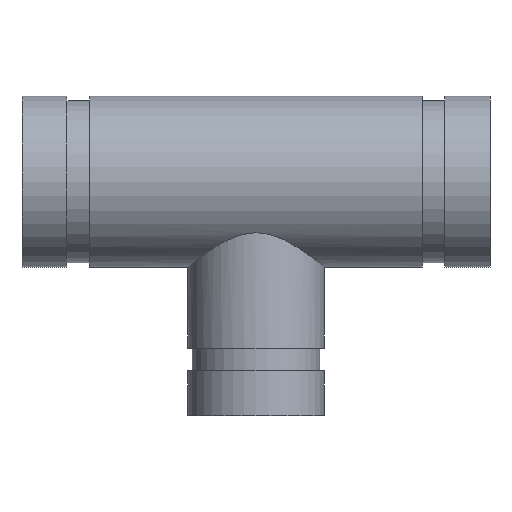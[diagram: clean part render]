
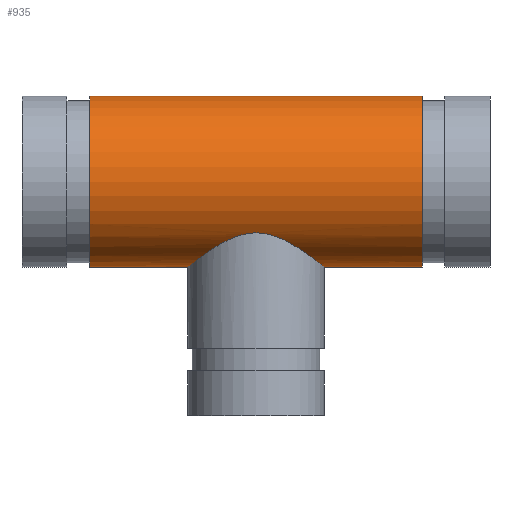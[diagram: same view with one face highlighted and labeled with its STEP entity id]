
A CAD part, top view. The second image highlights one B-rep face of the part: STEP entity #935.
In plain terms, the highlighted cylindrical face has radius 30.163 mm (diameter 60.325 mm), a full revolution.
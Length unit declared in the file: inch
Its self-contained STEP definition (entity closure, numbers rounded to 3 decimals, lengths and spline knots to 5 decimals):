
#61=FACE_BOUND('',#222,.T.);
#67=B_SPLINE_CURVE_WITH_KNOTS('',3,(#1807,#1808,#1809,#1810,#1811,#1812,
#1813,#1814,#1815,#1816,#1817,#1818,#1819,#1820,#1821,#1822,#1823,#1824),
 .UNSPECIFIED.,.F.,.F.,(4,2,2,2,2,2,2,2,4),(0.,0.49484,0.98968,
1.48453,1.97937,2.45882,2.93827,3.41772,
3.89717),.UNSPECIFIED.);
#68=B_SPLINE_CURVE_WITH_KNOTS('',3,(#1825,#1826,#1827,#1828,#1829,#1830,
#1831,#1832,#1833,#1834,#1835,#1836,#1837,#1838,#1839,#1840,#1841,#1842,
#1843,#1844,#1845,#1846,#1847,#1848,#1849,#1850,#1851,#1852,#1853,#1854,
#1855,#1856,#1857,#1858,#1859,#1860,#1861,#1862,#1863,#1864,#1865,#1866,
#1867,#1868,#1869,#1870,#1871,#1872,#1873,#1874),.UNSPECIFIED.,.F.,.F.,
(4,2,2,2,2,2,2,2,2,2,2,2,2,2,2,2,2,2,2,2,2,2,2,2,4),(3.89717,4.37663,
4.85608,5.33553,5.81498,6.30982,6.80467,
7.29951,7.79435,8.28919,8.78403,9.27888,
9.77372,10.25317,10.73262,11.21207,11.69152,
12.17098,12.65043,13.12988,13.60933,14.10417,
14.59902,15.09386,15.5887),.UNSPECIFIED.);
#81=CYLINDRICAL_SURFACE('',#1104,1.1875);
#103=LINE('',#1804,#125);
#125=VECTOR('',#1432,1.1875);
#171=FACE_OUTER_BOUND('',#221,.T.);
#221=EDGE_LOOP('',(#814,#815,#816,#817));
#222=EDGE_LOOP('',(#818,#819));
#326=CIRCLE('',#1087,1.1875);
#337=CIRCLE('',#1103,1.1875);
#424=VERTEX_POINT('',#1772);
#435=VERTEX_POINT('',#1801);
#436=VERTEX_POINT('',#1805);
#437=VERTEX_POINT('',#1806);
#552=EDGE_CURVE('',#424,#424,#326,.T.);
#565=EDGE_CURVE('',#435,#435,#337,.T.);
#566=EDGE_CURVE('',#435,#424,#103,.T.);
#567=EDGE_CURVE('',#436,#437,#67,.T.);
#568=EDGE_CURVE('',#437,#436,#68,.T.);
#814=ORIENTED_EDGE('',*,*,#565,.T.);
#815=ORIENTED_EDGE('',*,*,#566,.T.);
#816=ORIENTED_EDGE('',*,*,#552,.T.);
#817=ORIENTED_EDGE('',*,*,#566,.F.);
#818=ORIENTED_EDGE('',*,*,#567,.T.);
#819=ORIENTED_EDGE('',*,*,#568,.T.);
#935=ADVANCED_FACE('',(#171,#61),#81,.T.);
#1087=AXIS2_PLACEMENT_3D('',#1773,#1394,#1395);
#1103=AXIS2_PLACEMENT_3D('',#1802,#1428,#1429);
#1104=AXIS2_PLACEMENT_3D('',#1803,#1430,#1431);
#1394=DIRECTION('center_axis',(-1.,0.,0.));
#1395=DIRECTION('ref_axis',(0.,-1.,0.));
#1428=DIRECTION('center_axis',(1.,0.,0.));
#1429=DIRECTION('ref_axis',(0.,-1.,0.));
#1430=DIRECTION('center_axis',(-1.,0.,0.));
#1431=DIRECTION('ref_axis',(0.,-1.,0.));
#1432=DIRECTION('',(1.,0.,0.));
#1772=CARTESIAN_POINT('',(2.312,1.1875,0.));
#1773=CARTESIAN_POINT('Origin',(2.312,0.,0.));
#1801=CARTESIAN_POINT('',(-2.312,1.1875,0.));
#1802=CARTESIAN_POINT('Origin',(-2.312,0.,0.));
#1803=CARTESIAN_POINT('Origin',(3.25,0.,0.));
#1804=CARTESIAN_POINT('',(3.25,1.1875,0.));
#1805=CARTESIAN_POINT('',(0.,-0.7125,-0.95));
#1806=CARTESIAN_POINT('',(-0.95,-1.1875,0.));
#1807=CARTESIAN_POINT('Ctrl Pts',(0.,-0.7125,-0.95));
#1808=CARTESIAN_POINT('Ctrl Pts',(-0.06494,-0.7125,-0.95));
#1809=CARTESIAN_POINT('Ctrl Pts',(-0.12934,-0.72164,
-0.94331));
#1810=CARTESIAN_POINT('Ctrl Pts',(-0.25407,-0.75404,
-0.91761));
#1811=CARTESIAN_POINT('Ctrl Pts',(-0.31444,-0.77714,
-0.89861));
#1812=CARTESIAN_POINT('Ctrl Pts',(-0.42908,-0.83017,
-0.84986));
#1813=CARTESIAN_POINT('Ctrl Pts',(-0.48343,-0.86008,
-0.82006));
#1814=CARTESIAN_POINT('Ctrl Pts',(-0.58411,-0.92044,
-0.75168));
#1815=CARTESIAN_POINT('Ctrl Pts',(-0.63044,-0.9509,
-0.71307));
#1816=CARTESIAN_POINT('Ctrl Pts',(-0.71178,-1.0067,-0.63172));
#1817=CARTESIAN_POINT('Ctrl Pts',(-0.75008,-1.03428,
-0.58616));
#1818=CARTESIAN_POINT('Ctrl Pts',(-0.81875,-1.08511,
-0.48565));
#1819=CARTESIAN_POINT('Ctrl Pts',(-0.84913,-1.10834,
-0.43068));
#1820=CARTESIAN_POINT('Ctrl Pts',(-0.89874,-1.1468,
-0.31428));
#1821=CARTESIAN_POINT('Ctrl Pts',(-0.91801,-1.16204,
-0.25272));
#1822=CARTESIAN_POINT('Ctrl Pts',(-0.94365,-1.1824,
-0.12704));
#1823=CARTESIAN_POINT('Ctrl Pts',(-0.95,-1.1875,-0.06292));
#1824=CARTESIAN_POINT('Ctrl Pts',(-0.95,-1.1875,0.));
#1825=CARTESIAN_POINT('Ctrl Pts',(-0.95,-1.1875,0.));
#1826=CARTESIAN_POINT('Ctrl Pts',(-0.95,-1.1875,0.06292));
#1827=CARTESIAN_POINT('Ctrl Pts',(-0.94365,-1.1824,
0.12704));
#1828=CARTESIAN_POINT('Ctrl Pts',(-0.91801,-1.16204,
0.25272));
#1829=CARTESIAN_POINT('Ctrl Pts',(-0.89874,-1.1468,
0.31428));
#1830=CARTESIAN_POINT('Ctrl Pts',(-0.84913,-1.10834,
0.43068));
#1831=CARTESIAN_POINT('Ctrl Pts',(-0.81875,-1.08511,
0.48565));
#1832=CARTESIAN_POINT('Ctrl Pts',(-0.75008,-1.03428,
0.58616));
#1833=CARTESIAN_POINT('Ctrl Pts',(-0.71178,-1.0067,0.63172));
#1834=CARTESIAN_POINT('Ctrl Pts',(-0.63044,-0.9509,
0.71307));
#1835=CARTESIAN_POINT('Ctrl Pts',(-0.58411,-0.92044,
0.75168));
#1836=CARTESIAN_POINT('Ctrl Pts',(-0.48343,-0.86008,
0.82006));
#1837=CARTESIAN_POINT('Ctrl Pts',(-0.42908,-0.83017,
0.84986));
#1838=CARTESIAN_POINT('Ctrl Pts',(-0.31444,-0.77714,
0.89861));
#1839=CARTESIAN_POINT('Ctrl Pts',(-0.25407,-0.75404,
0.91761));
#1840=CARTESIAN_POINT('Ctrl Pts',(-0.12934,-0.72164,
0.94331));
#1841=CARTESIAN_POINT('Ctrl Pts',(-0.06494,-0.7125,0.95));
#1842=CARTESIAN_POINT('Ctrl Pts',(0.06494,-0.7125,0.95));
#1843=CARTESIAN_POINT('Ctrl Pts',(0.12934,-0.72164,
0.94331));
#1844=CARTESIAN_POINT('Ctrl Pts',(0.25407,-0.75404,
0.91761));
#1845=CARTESIAN_POINT('Ctrl Pts',(0.31444,-0.77714,
0.89861));
#1846=CARTESIAN_POINT('Ctrl Pts',(0.42908,-0.83017,
0.84986));
#1847=CARTESIAN_POINT('Ctrl Pts',(0.48343,-0.86008,
0.82006));
#1848=CARTESIAN_POINT('Ctrl Pts',(0.58411,-0.92044,
0.75168));
#1849=CARTESIAN_POINT('Ctrl Pts',(0.63044,-0.9509,
0.71307));
#1850=CARTESIAN_POINT('Ctrl Pts',(0.71178,-1.0067,0.63172));
#1851=CARTESIAN_POINT('Ctrl Pts',(0.75008,-1.03428,0.58616));
#1852=CARTESIAN_POINT('Ctrl Pts',(0.81875,-1.08511,0.48565));
#1853=CARTESIAN_POINT('Ctrl Pts',(0.84913,-1.10834,0.43068));
#1854=CARTESIAN_POINT('Ctrl Pts',(0.89874,-1.1468,0.31428));
#1855=CARTESIAN_POINT('Ctrl Pts',(0.91801,-1.16204,0.25272));
#1856=CARTESIAN_POINT('Ctrl Pts',(0.94365,-1.1824,0.12704));
#1857=CARTESIAN_POINT('Ctrl Pts',(0.95,-1.1875,0.06292));
#1858=CARTESIAN_POINT('Ctrl Pts',(0.95,-1.1875,-0.06292));
#1859=CARTESIAN_POINT('Ctrl Pts',(0.94365,-1.1824,-0.12704));
#1860=CARTESIAN_POINT('Ctrl Pts',(0.91801,-1.16204,-0.25272));
#1861=CARTESIAN_POINT('Ctrl Pts',(0.89874,-1.1468,-0.31428));
#1862=CARTESIAN_POINT('Ctrl Pts',(0.84913,-1.10834,-0.43068));
#1863=CARTESIAN_POINT('Ctrl Pts',(0.81875,-1.08511,-0.48565));
#1864=CARTESIAN_POINT('Ctrl Pts',(0.75008,-1.03428,-0.58616));
#1865=CARTESIAN_POINT('Ctrl Pts',(0.71178,-1.0067,-0.63172));
#1866=CARTESIAN_POINT('Ctrl Pts',(0.63044,-0.9509,
-0.71307));
#1867=CARTESIAN_POINT('Ctrl Pts',(0.58411,-0.92044,
-0.75168));
#1868=CARTESIAN_POINT('Ctrl Pts',(0.48343,-0.86008,
-0.82006));
#1869=CARTESIAN_POINT('Ctrl Pts',(0.42908,-0.83017,
-0.84986));
#1870=CARTESIAN_POINT('Ctrl Pts',(0.31444,-0.77714,
-0.89861));
#1871=CARTESIAN_POINT('Ctrl Pts',(0.25407,-0.75404,
-0.91761));
#1872=CARTESIAN_POINT('Ctrl Pts',(0.12934,-0.72164,-0.94331));
#1873=CARTESIAN_POINT('Ctrl Pts',(0.06494,-0.7125,-0.95));
#1874=CARTESIAN_POINT('Ctrl Pts',(0.,-0.7125,-0.95));
